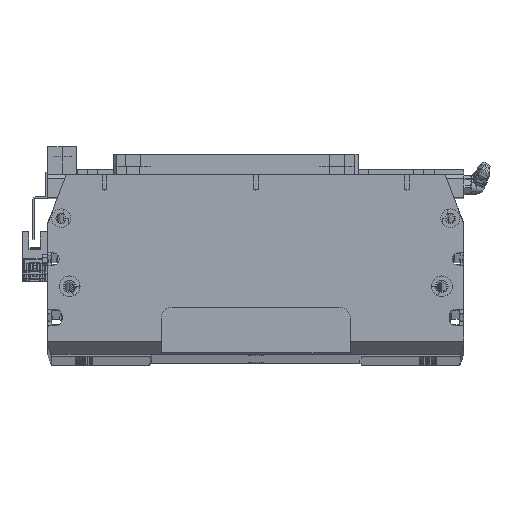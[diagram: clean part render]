
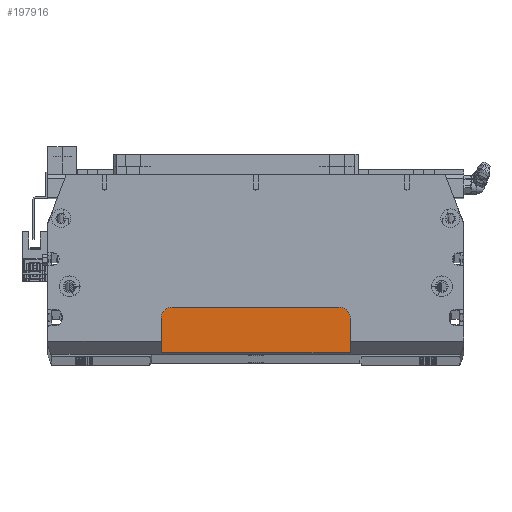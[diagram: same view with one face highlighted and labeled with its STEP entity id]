
A CAD part, top view. The second image highlights one B-rep face of the part: STEP entity #197916.
In plain terms, the highlighted planar face has unit normal (0, 0, 1) as drawn and (0, 1, 0) by its records, which use the part's own axes.
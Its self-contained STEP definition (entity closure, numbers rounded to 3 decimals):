
#7529 = DIRECTION ( 'NONE',  ( 0., 0., -1. ) ) ;
#15577 = EDGE_CURVE ( 'NONE', #36908, #120049, #32625, .T. ) ;
#19634 = VECTOR ( 'NONE', #234182, 1000. ) ;
#32444 = ORIENTED_EDGE ( 'NONE', *, *, #240656, .T. ) ;
#32625 = CIRCLE ( 'NONE', #331602, 6. ) ;
#36908 = VERTEX_POINT ( 'NONE', #233870 ) ;
#45004 = VERTEX_POINT ( 'NONE', #448101 ) ;
#57392 = ORIENTED_EDGE ( 'NONE', *, *, #109487, .F. ) ;
#66481 = VECTOR ( 'NONE', #161791, 1000. ) ;
#70752 = VECTOR ( 'NONE', #85945, 1000. ) ;
#83185 = EDGE_CURVE ( 'NONE', #120049, #135640, #325160, .T. ) ;
#84444 = CARTESIAN_POINT ( 'NONE',  ( -50., 8., 58.25 ) ) ;
#85945 = DIRECTION ( 'NONE',  ( 0., 0., 1. ) ) ;
#99888 = CARTESIAN_POINT ( 'NONE',  ( -44., 8., 39.25 ) ) ;
#108506 = CARTESIAN_POINT ( 'NONE',  ( 44., 8., 39.25 ) ) ;
#109487 = EDGE_CURVE ( 'NONE', #45004, #337968, #249519, .T. ) ;
#120049 = VERTEX_POINT ( 'NONE', #446588 ) ;
#134753 = EDGE_CURVE ( 'NONE', #45004, #36908, #436916, .T. ) ;
#135640 = VERTEX_POINT ( 'NONE', #161884 ) ;
#158317 = AXIS2_PLACEMENT_3D ( 'NONE', #408475, #410003, #160261 ) ;
#160261 = DIRECTION ( 'NONE',  ( 0., 0., -1. ) ) ;
#161791 = DIRECTION ( 'NONE',  ( -1., 0., 0. ) ) ;
#161884 = CARTESIAN_POINT ( 'NONE',  ( -44., 8., 33.25 ) ) ;
#168216 = DIRECTION ( 'NONE',  ( 0., 1., 0. ) ) ;
#171870 = AXIS2_PLACEMENT_3D ( 'NONE', #99888, #168216, #419478 ) ;
#176883 = ORIENTED_EDGE ( 'NONE', *, *, #134753, .T. ) ;
#181811 = ORIENTED_EDGE ( 'NONE', *, *, #15577, .T. ) ;
#197916 = ADVANCED_FACE ( 'NONE', ( #307017 ), #302973, .F. ) ;
#217821 = ORIENTED_EDGE ( 'NONE', *, *, #83185, .T. ) ;
#233870 = CARTESIAN_POINT ( 'NONE',  ( 50., 8., 39.25 ) ) ;
#234182 = DIRECTION ( 'NONE',  ( -1., 0., 0. ) ) ;
#240656 = EDGE_CURVE ( 'NONE', #135640, #459817, #426230, .T. ) ;
#245105 = DIRECTION ( 'NONE',  ( 0., 0., -1. ) ) ;
#249519 = LINE ( 'NONE', #306038, #66481 ) ;
#256612 = EDGE_LOOP ( 'NONE', ( #176883, #181811, #217821, #32444, #400555, #57392 ) ) ;
#302973 = PLANE ( 'NONE',  #158317 ) ;
#306038 = CARTESIAN_POINT ( 'NONE',  ( 110., 8., 57.25 ) ) ;
#307017 = FACE_OUTER_BOUND ( 'NONE', #256612, .T. ) ;
#308567 = CARTESIAN_POINT ( 'NONE',  ( -50., 8., 33.25 ) ) ;
#325160 = LINE ( 'NONE', #308567, #19634 ) ;
#326300 = LINE ( 'NONE', #84444, #70752 ) ;
#331602 = AXIS2_PLACEMENT_3D ( 'NONE', #108506, #384769, #245105 ) ;
#336161 = CARTESIAN_POINT ( 'NONE',  ( -50., 8., 57.25 ) ) ;
#337968 = VERTEX_POINT ( 'NONE', #336161 ) ;
#359519 = VECTOR ( 'NONE', #7529, 1000. ) ;
#375129 = EDGE_CURVE ( 'NONE', #459817, #337968, #326300, .T. ) ;
#379051 = CARTESIAN_POINT ( 'NONE',  ( -50., 8., 39.25 ) ) ;
#384769 = DIRECTION ( 'NONE',  ( 0., 1., 0. ) ) ;
#387749 = CARTESIAN_POINT ( 'NONE',  ( 50., 8., 58.25 ) ) ;
#400555 = ORIENTED_EDGE ( 'NONE', *, *, #375129, .T. ) ;
#408475 = CARTESIAN_POINT ( 'NONE',  ( 0., 8., 0. ) ) ;
#410003 = DIRECTION ( 'NONE',  ( 0., -1., 0. ) ) ;
#419478 = DIRECTION ( 'NONE',  ( 0., 0., -1. ) ) ;
#426230 = CIRCLE ( 'NONE', #171870, 6. ) ;
#436916 = LINE ( 'NONE', #387749, #359519 ) ;
#446588 = CARTESIAN_POINT ( 'NONE',  ( 44., 8., 33.25 ) ) ;
#448101 = CARTESIAN_POINT ( 'NONE',  ( 50., 8., 57.25 ) ) ;
#459817 = VERTEX_POINT ( 'NONE', #379051 ) ;
